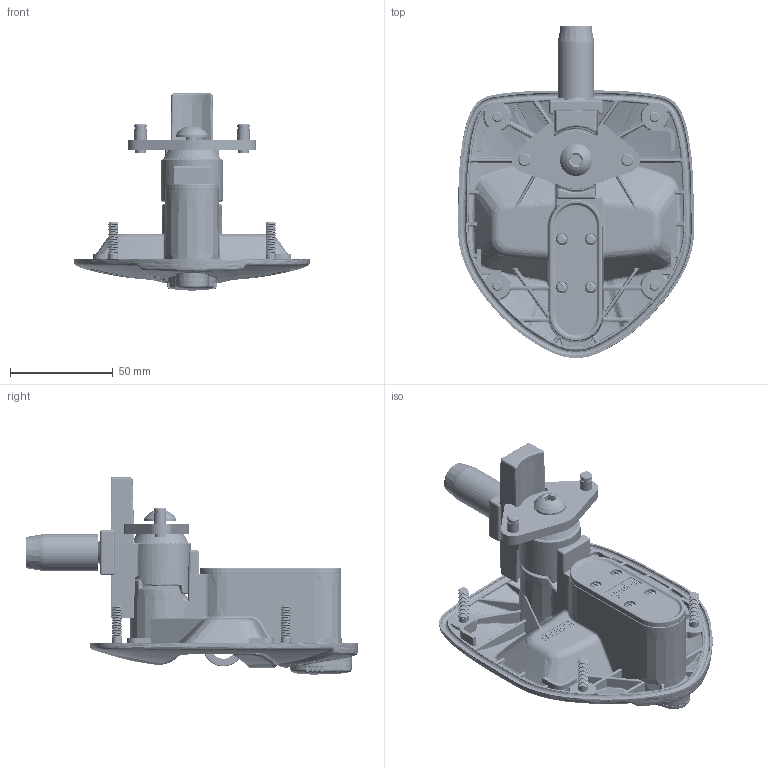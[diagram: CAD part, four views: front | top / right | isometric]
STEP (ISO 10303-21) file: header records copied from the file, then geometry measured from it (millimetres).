
FILE_DESCRIPTION((''),'2;1');
FILE_NAME('000_ASM','2026-03-06T12:05:06',('Administrator'),(''),'CREO PARAMETRIC BY PTC INC, 2019010','CREO PARAMETRIC BY PTC INC, 2019010','');
FILE_SCHEMA(('CONFIG_CONTROL_DESIGN','SHAPE_APPEARANCE_LAYERS_GROUPS'));
Products named in the file (21): 3121710049004; T-TG1710-01_74; T-SS1710-01_85; T-YB1710-01_24; T-TG1710-03_19; T-LS1710-01_17; T-SS1710-03_14; T-MD1710-01_12; TT-SS1710-03_ASM_12_ASM; LS-M6X16_12; 000; 1710-1110-20_ASM_159_ASM; 000_ASM; 3061710081601; 3121710049005; LS-M3X8-GB_T823-2016_11; 2011710049004; 3031710012002; 3169601349031; 3131710145004
Assembly tree (30 placements, depth 5):
  000_ASM
    3121710049004
    000_ASM
      1710-1110-20_ASM_159_ASM
        T-TG1710-01_74
        T-SS1710-01_85
        T-YB1710-01_24
        T-TG1710-03_19
        T-LS1710-01_17
        TT-SS1710-03_ASM_12_ASM
          T-SS1710-03_14
          T-MD1710-01_12  x2
        LS-M6X16_12
        000
    3061710081601
    3121710049005
    LS-M3X8-GB_T823-2016_11  x4
    2011710049004
    3031710012002
    3169601349031  x4
    3131710145004  x4
Bounding box: 114.71 x 161.15 x 95.75 mm (x, y, z)
Volume: 151172.7 mm3; surface area: 104451.2 mm2
Topology: 26 solids, 27 shells, 4890 faces, 11860 edges, 7040 vertices
Faces by surface type: bspline 1823, cylinder 1110, plane 956, torus 364, cone 330, sphere 169, extrusion 138
Entity records: 333171 total; most frequent: CARTESIAN_POINT 169691, ORIENTED_EDGE 22954, PRESENTATION_STYLE_ASSIGNMENT 16090, STYLED_ITEM 16090, DIRECTION 15848, EDGE_CURVE 11477, CURVE_STYLE 11401, VERTEX_POINT 6820
